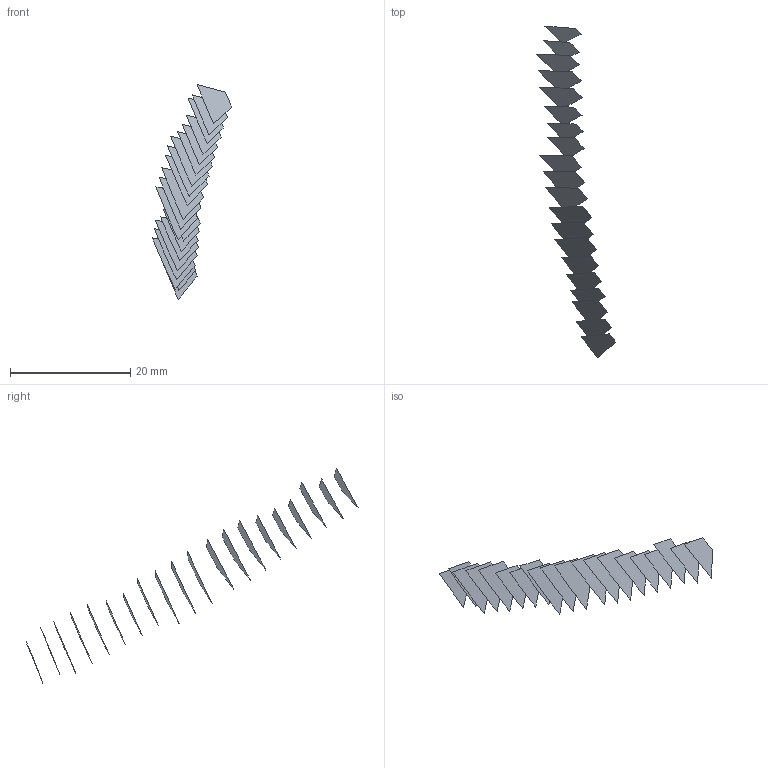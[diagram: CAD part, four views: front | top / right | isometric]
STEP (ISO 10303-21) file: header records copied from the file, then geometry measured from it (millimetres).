
FILE_DESCRIPTION(('FreeCAD Model'),'2;1');
FILE_NAME('Open CASCADE Shape Model','2022-05-22T07:50:26',('FreeCAD'),( 'FreeCAD'),'Open CASCADE STEP processor 7.5','FreeCAD','Unknown');
FILE_SCHEMA(('AUTOMOTIVE_DESIGN { 1 0 10303 214 1 1 1 1 }'));
Length unit declared in the file: millimetre
Products named in the file (21): Open CASCADE STEP translator 7.5 37; Open CASCADE STEP translator 7.5 37.1; Open CASCADE STEP translator 7.5 37.2; Open CASCADE STEP translator 7.5 37.3; Open CASCADE STEP translator 7.5 37.4; Open CASCADE STEP translator 7.5 37.5; Open CASCADE STEP translator 7.5 37.6; Open CASCADE STEP translator 7.5 37.7; Open CASCADE STEP translator 7.5 37.8; Open CASCADE STEP translator 7.5 37.9; Open CASCADE STEP translator 7.5 37.10; Open CASCADE STEP translator 7.5 37.11; Open CASCADE STEP translator 7.5 37.12; Open CASCADE STEP translator 7.5 37.13; Open CASCADE STEP translator 7.5 37.14; Open CASCADE STEP translator 7.5 37.15; Open CASCADE STEP translator 7.5 37.16; Open CASCADE STEP translator 7.5 37.17; Open CASCADE STEP translator 7.5 37.18; Open CASCADE STEP translator 7.5 37.19; Open CASCADE STEP translator 7.5 37.20
Assembly tree (20 placements, depth 2):
  Open CASCADE STEP translator 7.5 37
    Open CASCADE STEP translator 7.5 37.1
    Open CASCADE STEP translator 7.5 37.2
    Open CASCADE STEP translator 7.5 37.3
    Open CASCADE STEP translator 7.5 37.4
    Open CASCADE STEP translator 7.5 37.5
    Open CASCADE STEP translator 7.5 37.6
    Open CASCADE STEP translator 7.5 37.7
    Open CASCADE STEP translator 7.5 37.8
    Open CASCADE STEP translator 7.5 37.9
    Open CASCADE STEP translator 7.5 37.10
    Open CASCADE STEP translator 7.5 37.11
    Open CASCADE STEP translator 7.5 37.12
    Open CASCADE STEP translator 7.5 37.13
    Open CASCADE STEP translator 7.5 37.14
    Open CASCADE STEP translator 7.5 37.15
    Open CASCADE STEP translator 7.5 37.16
    Open CASCADE STEP translator 7.5 37.17
    Open CASCADE STEP translator 7.5 37.18
    Open CASCADE STEP translator 7.5 37.19
    Open CASCADE STEP translator 7.5 37.20
Bounding box: 13.23 x 55.27 x 35.76 mm (x, y, z)
Surface area: 588.5 mm2 (no closed solid volume)
Topology: 0 solids, 20 shells, 20 faces, 201 edges, 201 vertices
Faces by surface type: bspline 20
Entity records: 3189 total; most frequent: CARTESIAN_POINT 1106, B_SPLINE_CURVE_WITH_KNOTS 402, ORIENTED_EDGE 201, EDGE_CURVE 201, VERTEX_POINT 201, SURFACE_CURVE 201, PCURVE 201, DEFINITIONAL_REPRESENTATION 201
